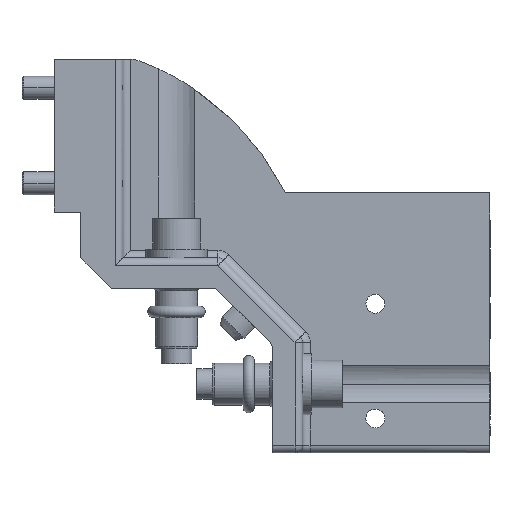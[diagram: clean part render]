
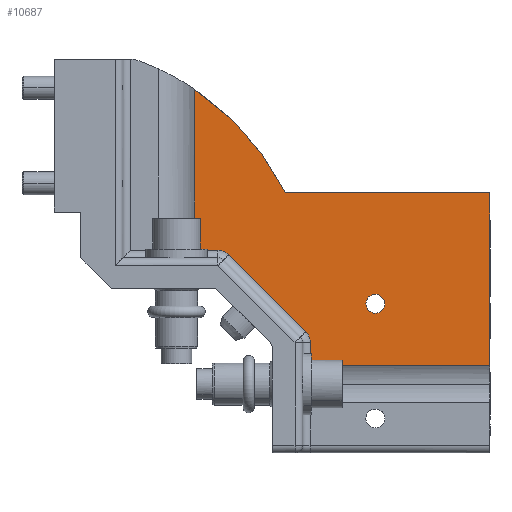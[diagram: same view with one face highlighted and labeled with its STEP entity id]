
A CAD part, front view. The second image highlights one B-rep face of the part: STEP entity #10687.
In plain terms, the highlighted planar face has unit normal (0, -1, 0) as drawn and (0, 1, 0) by its records, which use the part's own axes.
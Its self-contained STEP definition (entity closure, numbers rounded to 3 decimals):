
#10640=AXIS2_PLACEMENT_3D('Plane Axis2P3D',#10637,#10638,#10639) ;
#4231=CARTESIAN_POINT('Control Point',(54.459,-8.,21.)) ;
#4232=CARTESIAN_POINT('Control Point',(54.459,-8.,20.351)) ;
#4233=CARTESIAN_POINT('Control Point',(54.244,-8.,19.701)) ;
#4234=CARTESIAN_POINT('Control Point',(53.814,-8.,19.147)) ;
#4235=CARTESIAN_POINT('Control Point',(52.661,-8.,18.41)) ;
#4236=CARTESIAN_POINT('Control Point',(51.297,-8.,18.504)) ;
#4237=CARTESIAN_POINT('Control Point',(50.653,-8.,18.784)) ;
#4238=CARTESIAN_POINT('Control Point',(50.154,-8.,19.251)) ;
#4239=CARTESIAN_POINT('Control Point',(49.842,-8.,19.821)) ;
#4240=CARTESIAN_POINT('Vertex',(54.459,-8.,21.)) ;
#4242=CARTESIAN_POINT('Vertex',(49.842,-8.,19.821)) ;
#4246=CARTESIAN_POINT('Control Point',(49.842,-8.,19.821)) ;
#4247=CARTESIAN_POINT('Control Point',(49.646,-8.,20.181)) ;
#4248=CARTESIAN_POINT('Control Point',(49.542,-8.,20.59)) ;
#4249=CARTESIAN_POINT('Control Point',(49.542,-8.,21.)) ;
#4250=CARTESIAN_POINT('Vertex',(49.542,-8.,21.)) ;
#4926=CARTESIAN_POINT('Vertex',(4.822,-8.,77.073)) ;
#4930=CARTESIAN_POINT('Control Point',(4.822,-8.,35.)) ;
#4931=CARTESIAN_POINT('Control Point',(4.822,-8.,77.073)) ;
#4932=CARTESIAN_POINT('Vertex',(4.822,-8.,35.)) ;
#5180=CARTESIAN_POINT('Vertex',(35.,-8.,4.822)) ;
#5184=CARTESIAN_POINT('Control Point',(35.,-8.,4.822)) ;
#5185=CARTESIAN_POINT('Control Point',(82.,-8.,4.822)) ;
#5186=CARTESIAN_POINT('Vertex',(82.,-8.,4.822)) ;
#9471=CARTESIAN_POINT('Control Point',(82.,-8.,50.)) ;
#9472=CARTESIAN_POINT('Control Point',(82.,-8.,4.822)) ;
#9473=CARTESIAN_POINT('Vertex',(82.,-8.,50.)) ;
#10043=CARTESIAN_POINT('Vertex',(28.5,-8.,50.)) ;
#10047=CARTESIAN_POINT('Control Point',(4.822,-8.,77.073)) ;
#10048=CARTESIAN_POINT('Control Point',(12.366,-8.,71.996)) ;
#10049=CARTESIAN_POINT('Control Point',(19.032,-8.,65.61)) ;
#10050=CARTESIAN_POINT('Control Point',(24.473,-8.,58.153)) ;
#10051=CARTESIAN_POINT('Control Point',(28.5,-8.,50.)) ;
#10217=CARTESIAN_POINT('Control Point',(13.689,-8.,33.828)) ;
#10218=CARTESIAN_POINT('Control Point',(33.828,-8.,13.689)) ;
#10219=CARTESIAN_POINT('Vertex',(13.689,-8.,33.828)) ;
#10221=CARTESIAN_POINT('Vertex',(33.828,-8.,13.689)) ;
#10260=CARTESIAN_POINT('Vertex',(35.,-8.,10.861)) ;
#10264=CARTESIAN_POINT('Control Point',(35.,-8.,10.861)) ;
#10265=CARTESIAN_POINT('Control Point',(35.,-8.,4.822)) ;
#10408=CARTESIAN_POINT('Vertex',(10.861,-8.,35.)) ;
#10412=CARTESIAN_POINT('Control Point',(4.822,-8.,35.)) ;
#10413=CARTESIAN_POINT('Control Point',(10.861,-8.,35.)) ;
#10576=CARTESIAN_POINT('Control Point',(28.5,-8.,50.)) ;
#10577=CARTESIAN_POINT('Control Point',(82.,-8.,50.)) ;
#10637=CARTESIAN_POINT('Axis2P3D Location',(0.,-8.,0.)) ;
#10643=CARTESIAN_POINT('Control Point',(33.828,-8.,13.689)) ;
#10644=CARTESIAN_POINT('Control Point',(34.245,-8.,13.273)) ;
#10645=CARTESIAN_POINT('Control Point',(34.567,-8.,12.764)) ;
#10646=CARTESIAN_POINT('Control Point',(34.766,-8.,12.21)) ;
#10647=CARTESIAN_POINT('Control Point',(34.92,-8.,11.778)) ;
#10648=CARTESIAN_POINT('Control Point',(35.,-8.,11.319)) ;
#10649=CARTESIAN_POINT('Control Point',(35.,-8.,10.861)) ;
#10652=CARTESIAN_POINT('Control Point',(10.861,-8.,35.)) ;
#10653=CARTESIAN_POINT('Control Point',(10.967,-8.,35.)) ;
#10654=CARTESIAN_POINT('Control Point',(11.073,-8.,34.996)) ;
#10655=CARTESIAN_POINT('Control Point',(11.179,-8.,34.987)) ;
#10656=CARTESIAN_POINT('Control Point',(11.806,-8.,34.937)) ;
#10657=CARTESIAN_POINT('Control Point',(12.42,-8.,34.737)) ;
#10658=CARTESIAN_POINT('Control Point',(12.956,-8.,34.407)) ;
#10659=CARTESIAN_POINT('Control Point',(13.222,-8.,34.244)) ;
#10660=CARTESIAN_POINT('Control Point',(13.468,-8.,34.049)) ;
#10661=CARTESIAN_POINT('Control Point',(13.689,-8.,33.828)) ;
#10676=CARTESIAN_POINT('Control Point',(49.542,-8.,21.)) ;
#10677=CARTESIAN_POINT('Control Point',(49.542,-8.,23.459)) ;
#10678=CARTESIAN_POINT('Control Point',(52.,-8.,23.459)) ;
#10679=CARTESIAN_POINT('Control Point',(54.459,-8.,23.459)) ;
#10680=CARTESIAN_POINT('Control Point',(54.459,-8.,21.)) ;
#10638=DIRECTION('Axis2P3D Direction',(0.,1.,0.)) ;
#10639=DIRECTION('Axis2P3D XDirection',(0.,0.,1.)) ;
#10664=ORIENTED_EDGE('',*,*,#10052,.T.) ;
#10665=ORIENTED_EDGE('',*,*,#10578,.T.) ;
#10666=ORIENTED_EDGE('',*,*,#9475,.T.) ;
#10667=ORIENTED_EDGE('',*,*,#5188,.F.) ;
#10668=ORIENTED_EDGE('',*,*,#10266,.F.) ;
#10669=ORIENTED_EDGE('',*,*,#10650,.F.) ;
#10670=ORIENTED_EDGE('',*,*,#10223,.F.) ;
#10671=ORIENTED_EDGE('',*,*,#10662,.F.) ;
#10672=ORIENTED_EDGE('',*,*,#10414,.F.) ;
#10673=ORIENTED_EDGE('',*,*,#4934,.T.) ;
#10683=ORIENTED_EDGE('',*,*,#4244,.F.) ;
#10684=ORIENTED_EDGE('',*,*,#10681,.F.) ;
#10685=ORIENTED_EDGE('',*,*,#4252,.F.) ;
#10686=FACE_BOUND('',#10682,.T.) ;
#10687=ADVANCED_FACE('PartBody',(#10674,#10686),#10641,.T.) ;
#4230=B_SPLINE_CURVE_WITH_KNOTS('',5,(#4231,#4232,#4233,#4234,#4235,#4236,#4237,#4238,#4239),.UNSPECIFIED.,.F.,.U.,(6,3,6),(3.642,4.962,6.283),.UNSPECIFIED.) ;
#4245=B_SPLINE_CURVE_WITH_KNOTS('',3,(#4246,#4247,#4248,#4249),.UNSPECIFIED.,.F.,.U.,(4,4),(0.,0.5),.UNSPECIFIED.) ;
#4929=B_SPLINE_CURVE_WITH_KNOTS('',1,(#4930,#4931),.UNSPECIFIED.,.F.,.U.,(2,2),(0.,1.),.UNSPECIFIED.) ;
#5183=B_SPLINE_CURVE_WITH_KNOTS('',1,(#5184,#5185),.UNSPECIFIED.,.F.,.U.,(2,2),(0.,1.),.UNSPECIFIED.) ;
#9470=B_SPLINE_CURVE_WITH_KNOTS('',1,(#9471,#9472),.UNSPECIFIED.,.F.,.U.,(2,2),(0.,45.178),.UNSPECIFIED.) ;
#10046=B_SPLINE_CURVE_WITH_KNOTS('',4,(#10047,#10048,#10049,#10050,#10051),.UNSPECIFIED.,.F.,.U.,(5,5),(0.,0.52),.UNSPECIFIED.) ;
#10216=B_SPLINE_CURVE_WITH_KNOTS('',1,(#10217,#10218),.UNSPECIFIED.,.F.,.U.,(2,2),(0.,1.),.UNSPECIFIED.) ;
#10263=B_SPLINE_CURVE_WITH_KNOTS('',1,(#10264,#10265),.UNSPECIFIED.,.F.,.U.,(2,2),(0.,1.),.UNSPECIFIED.) ;
#10411=B_SPLINE_CURVE_WITH_KNOTS('',1,(#10412,#10413),.UNSPECIFIED.,.F.,.U.,(2,2),(0.,1.),.UNSPECIFIED.) ;
#10575=B_SPLINE_CURVE_WITH_KNOTS('',1,(#10576,#10577),.UNSPECIFIED.,.F.,.U.,(2,2),(0.,53.5),.UNSPECIFIED.) ;
#10642=B_SPLINE_CURVE_WITH_KNOTS('',3,(#10643,#10644,#10645,#10646,#10647,#10648,#10649),.UNSPECIFIED.,.F.,.U.,(4,3,4),(0.,1.777,3.163),.UNSPECIFIED.) ;
#10651=B_SPLINE_CURVE_WITH_KNOTS('',3,(#10652,#10653,#10654,#10655,#10656,#10657,#10658,#10659,#10660,#10661),.UNSPECIFIED.,.F.,.U.,(4,3,3,4),(0.,0.321,2.219,3.161),.UNSPECIFIED.) ;
#4244=EDGE_CURVE('',#4241,#4243,#4230,.T.) ;
#4252=EDGE_CURVE('',#4243,#4251,#4245,.T.) ;
#4934=EDGE_CURVE('',#4933,#4927,#4929,.T.) ;
#5188=EDGE_CURVE('',#5181,#5187,#5183,.T.) ;
#9475=EDGE_CURVE('',#9474,#5187,#9470,.T.) ;
#10052=EDGE_CURVE('',#4927,#10044,#10046,.T.) ;
#10223=EDGE_CURVE('',#10220,#10222,#10216,.T.) ;
#10266=EDGE_CURVE('',#10261,#5181,#10263,.T.) ;
#10414=EDGE_CURVE('',#4933,#10409,#10411,.T.) ;
#10578=EDGE_CURVE('',#10044,#9474,#10575,.T.) ;
#10650=EDGE_CURVE('',#10222,#10261,#10642,.T.) ;
#10662=EDGE_CURVE('',#10409,#10220,#10651,.T.) ;
#10681=EDGE_CURVE('',#4251,#4241,#10675,.T.) ;
#10663=EDGE_LOOP('',(#10664,#10665,#10666,#10667,#10668,#10669,#10670,#10671,#10672,#10673)) ;
#10682=EDGE_LOOP('',(#10683,#10684,#10685)) ;
#10674=FACE_OUTER_BOUND('',#10663,.T.) ;
#10641=PLANE('',#10640) ;
#4241=VERTEX_POINT('',#4240) ;
#4243=VERTEX_POINT('',#4242) ;
#4251=VERTEX_POINT('',#4250) ;
#4927=VERTEX_POINT('',#4926) ;
#4933=VERTEX_POINT('',#4932) ;
#5181=VERTEX_POINT('',#5180) ;
#5187=VERTEX_POINT('',#5186) ;
#9474=VERTEX_POINT('',#9473) ;
#10044=VERTEX_POINT('',#10043) ;
#10220=VERTEX_POINT('',#10219) ;
#10222=VERTEX_POINT('',#10221) ;
#10261=VERTEX_POINT('',#10260) ;
#10409=VERTEX_POINT('',#10408) ;
#10675=(BOUNDED_CURVE()B_SPLINE_CURVE(2,(#10676,#10677,#10678,#10679,#10680),.UNSPECIFIED.,.F.,.U.)B_SPLINE_CURVE_WITH_KNOTS((3,2,3),(0.,4.917,9.834),.UNSPECIFIED.)CURVE()GEOMETRIC_REPRESENTATION_ITEM()RATIONAL_B_SPLINE_CURVE((1.,0.707,1.,0.707,1.))REPRESENTATION_ITEM('')) ;
